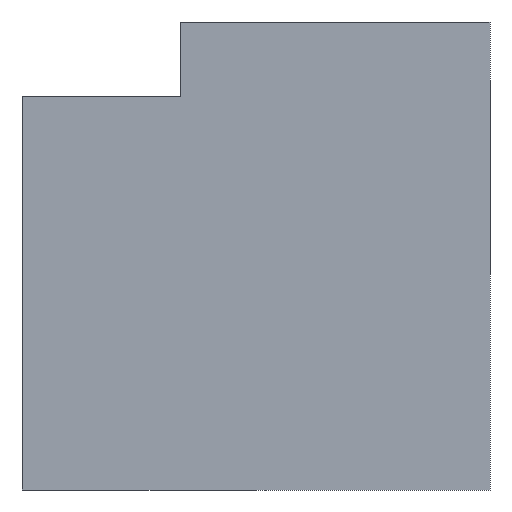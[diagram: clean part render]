
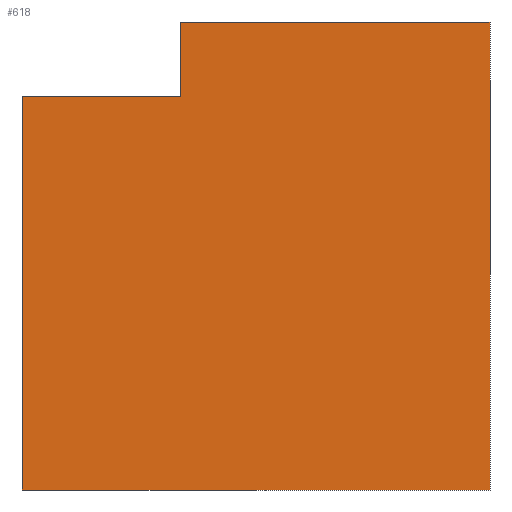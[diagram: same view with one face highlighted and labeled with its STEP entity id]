
A CAD part, left-side view. The second image highlights one B-rep face of the part: STEP entity #618.
In plain terms, the highlighted planar face has unit normal (-1, 0, 0).
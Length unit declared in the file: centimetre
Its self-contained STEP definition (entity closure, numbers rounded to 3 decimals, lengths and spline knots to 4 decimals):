
#18 = CARTESIAN_POINT ( 'NONE',  ( 0., 662.3679, 841.541 ) ) ;
#28 = EDGE_CURVE ( 'NONE', #207, #96, #410, .T. ) ;
#36 = DIRECTION ( 'NONE',  ( 0., 0., -1. ) ) ;
#51 = EDGE_CURVE ( 'NONE', #275, #71, #631, .T. ) ;
#56 = VECTOR ( 'NONE', #157, 100. ) ;
#58 = CARTESIAN_POINT ( 'NONE',  ( 0., 0., 0. ) ) ;
#64 = VECTOR ( 'NONE', #390, 100. ) ;
#71 = VERTEX_POINT ( 'NONE', #58 ) ;
#87 = VECTOR ( 'NONE', #97, 100. ) ;
#96 = VERTEX_POINT ( 'NONE', #257 ) ;
#97 = DIRECTION ( 'NONE',  ( 0., 0., -1. ) ) ;
#126 = ORIENTED_EDGE ( 'NONE', *, *, #51, .T. ) ;
#130 = CARTESIAN_POINT ( 'NONE',  ( 0., 1000., 1000. ) ) ;
#147 = AXIS2_PLACEMENT_3D ( 'NONE', #130, #331, #36 ) ;
#157 = DIRECTION ( 'NONE',  ( 0., -1., 0. ) ) ;
#180 = EDGE_CURVE ( 'NONE', #207, #275, #201, .T. ) ;
#183 = DIRECTION ( 'NONE',  ( 0., -1., 0. ) ) ;
#196 = CARTESIAN_POINT ( 'NONE',  ( 0., 1000., 1000. ) ) ;
#201 = LINE ( 'NONE', #196, #458 ) ;
#207 = VERTEX_POINT ( 'NONE', #510 ) ;
#225 = ORIENTED_EDGE ( 'NONE', *, *, #28, .F. ) ;
#226 = LINE ( 'NONE', #394, #87 ) ;
#232 = LINE ( 'NONE', #436, #524 ) ;
#239 = CARTESIAN_POINT ( 'NONE',  ( 0., 0., 1000. ) ) ;
#241 = ORIENTED_EDGE ( 'NONE', *, *, #581, .F. ) ;
#257 = CARTESIAN_POINT ( 'NONE',  ( 0., 662.3679, 841.541 ) ) ;
#265 = ORIENTED_EDGE ( 'NONE', *, *, #180, .T. ) ;
#275 = VERTEX_POINT ( 'NONE', #321 ) ;
#299 = EDGE_CURVE ( 'NONE', #474, #310, #232, .T. ) ;
#310 = VERTEX_POINT ( 'NONE', #239 ) ;
#321 = CARTESIAN_POINT ( 'NONE',  ( 0., 1000., 0. ) ) ;
#331 = DIRECTION ( 'NONE',  ( 1., 0., 0. ) ) ;
#384 = CARTESIAN_POINT ( 'NONE',  ( 0., 662.3679, 841.541 ) ) ;
#387 = ORIENTED_EDGE ( 'NONE', *, *, #494, .F. ) ;
#390 = DIRECTION ( 'NONE',  ( 0., 0., 1. ) ) ;
#394 = CARTESIAN_POINT ( 'NONE',  ( 0., 0., 1000. ) ) ;
#407 = VECTOR ( 'NONE', #623, 100. ) ;
#410 = LINE ( 'NONE', #18, #407 ) ;
#417 = CARTESIAN_POINT ( 'NONE',  ( 0., 1000., 0. ) ) ;
#430 = FACE_OUTER_BOUND ( 'NONE', #489, .T. ) ;
#436 = CARTESIAN_POINT ( 'NONE',  ( 0., 1000., 1000. ) ) ;
#453 = DIRECTION ( 'NONE',  ( 0., 0., -1. ) ) ;
#458 = VECTOR ( 'NONE', #453, 100. ) ;
#474 = VERTEX_POINT ( 'NONE', #660 ) ;
#489 = EDGE_LOOP ( 'NONE', ( #387, #225, #265, #126, #241, #517 ) ) ;
#494 = EDGE_CURVE ( 'NONE', #96, #474, #659, .T. ) ;
#510 = CARTESIAN_POINT ( 'NONE',  ( 0., 1000., 841.541 ) ) ;
#517 = ORIENTED_EDGE ( 'NONE', *, *, #299, .F. ) ;
#524 = VECTOR ( 'NONE', #183, 100. ) ;
#581 = EDGE_CURVE ( 'NONE', #310, #71, #226, .T. ) ;
#588 = PLANE ( 'NONE',  #147 ) ;
#618 = ADVANCED_FACE ( 'NONE', ( #430 ), #588, .F. ) ;
#623 = DIRECTION ( 'NONE',  ( 0., -1., 0. ) ) ;
#631 = LINE ( 'NONE', #417, #56 ) ;
#659 = LINE ( 'NONE', #384, #64 ) ;
#660 = CARTESIAN_POINT ( 'NONE',  ( 0., 662.3679, 1000. ) ) ;
